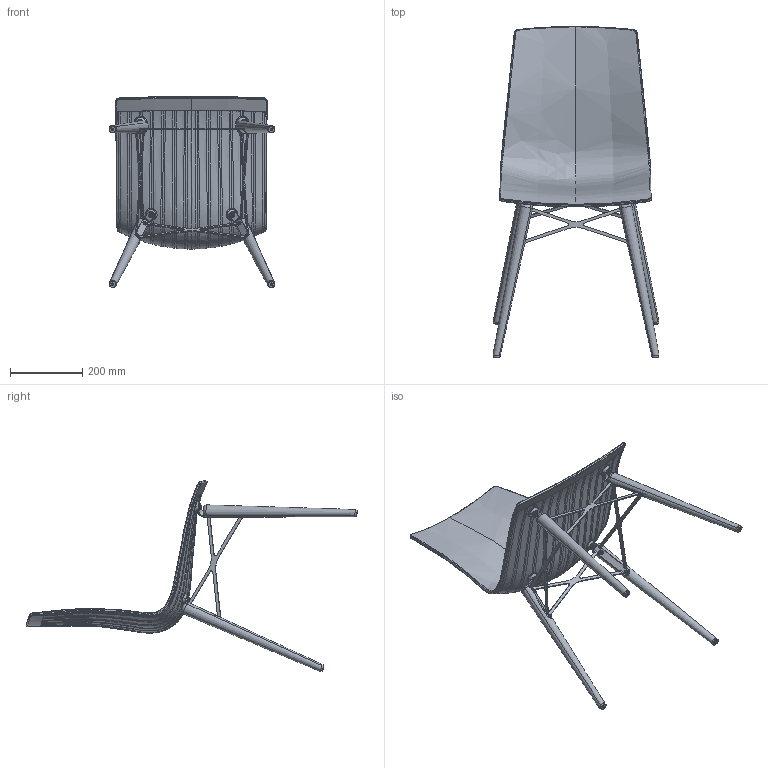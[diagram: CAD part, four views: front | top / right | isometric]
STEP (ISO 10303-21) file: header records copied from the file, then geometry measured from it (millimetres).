
FILE_DESCRIPTION (( 'STEP AP203' ), '1' );
FILE_NAME ('X montaj.STEP', '2014-07-18T11:20:46', ( '' ), ( '' ), 'SwSTEP 2.0', 'SolidWorks 2011', '' );
FILE_SCHEMA (( 'CONFIG_CONTROL_DESIGN' ));
Length unit declared in the file: millimetre
Products named in the file (9): X montaj; vida10; vida; EXTREME-S_chair--3D__comm.26030; ayak ucu; X ayak; X 霵 kulak; X arka kulak; X ara sac
Assembly tree (29 placements, depth 2):
  X montaj
    vida  x8
    ayak ucu  x4
    X ara sac  x4
    X arka kulak  x2
    X ayak  x4
    X 霵 kulak  x2
    vida10  x4
    EXTREME-S_chair--3D__comm.26030
Bounding box: 459.93 x 918.94 x 530.32 mm (x, y, z)
Volume: 4145877.4 mm3; surface area: 912632.2 mm2
Topology: 29 solids, 29 shells, 833 faces, 2143 edges, 1384 vertices
Faces by surface type: plane 376, cylinder 237, bspline 112, torus 48, cone 48, sphere 12
Entity records: 46342 total; most frequent: CARTESIAN_POINT 37228, ORIENTED_EDGE 1826, DIRECTION 1219, EDGE_CURVE 913, VERTEX_POINT 605, AXIS2_PLACEMENT_3D 449, B_SPLINE_CURVE_WITH_KNOTS 395, EDGE_LOOP 360
